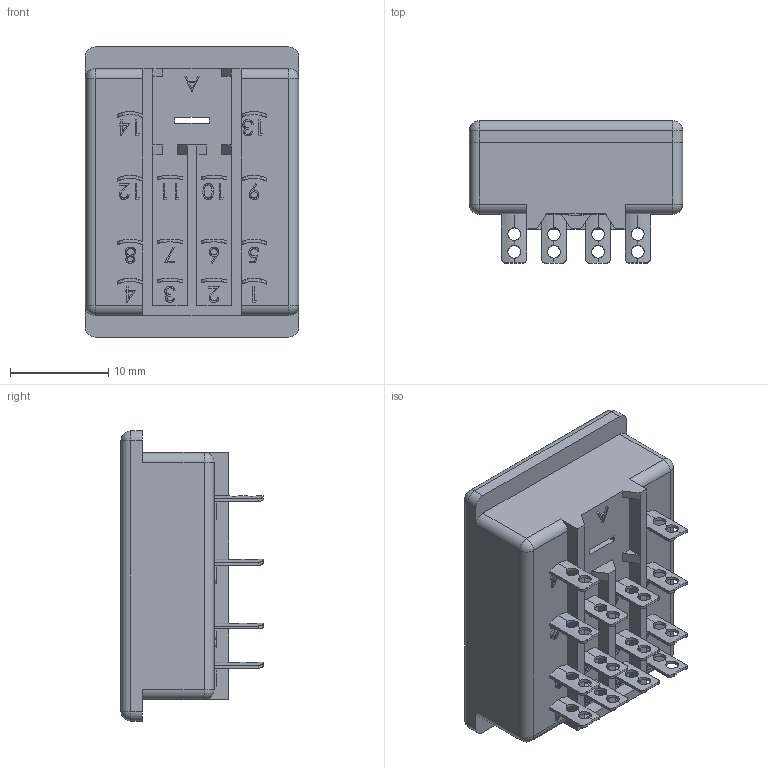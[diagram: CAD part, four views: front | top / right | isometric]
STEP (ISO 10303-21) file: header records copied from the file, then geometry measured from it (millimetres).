
FILE_DESCRIPTION (( 'STEP AP203' ), '1' );
FILE_NAME ('MSO4T.STEP', '2019-09-12T17:00:48', ( '' ), ( '' ), 'SwSTEP 2.0', 'SolidWorks 2012', '' );
FILE_SCHEMA (( 'CONFIG_CONTROL_DESIGN' ));
Length unit declared in the file: millimetre
Products named in the file (1): MSO4T
Bounding box: 21.75 x 14.5 x 29.6 mm (x, y, z)
Volume: 5062.9 mm3; surface area: 3303 mm2
Topology: 1 solids, 1 shells, 580 faces, 1715 edges, 1122 vertices
Faces by surface type: plane 320, cylinder 160, bspline 92, sphere 8
Entity records: 25572 total; most frequent: CARTESIAN_POINT 11014, ORIENTED_EDGE 3414, DIRECTION 2373, EDGE_CURVE 1707, VERTEX_POINT 1122, VECTOR 1091, LINE 1091, AXIS2_PLACEMENT_3D 641
